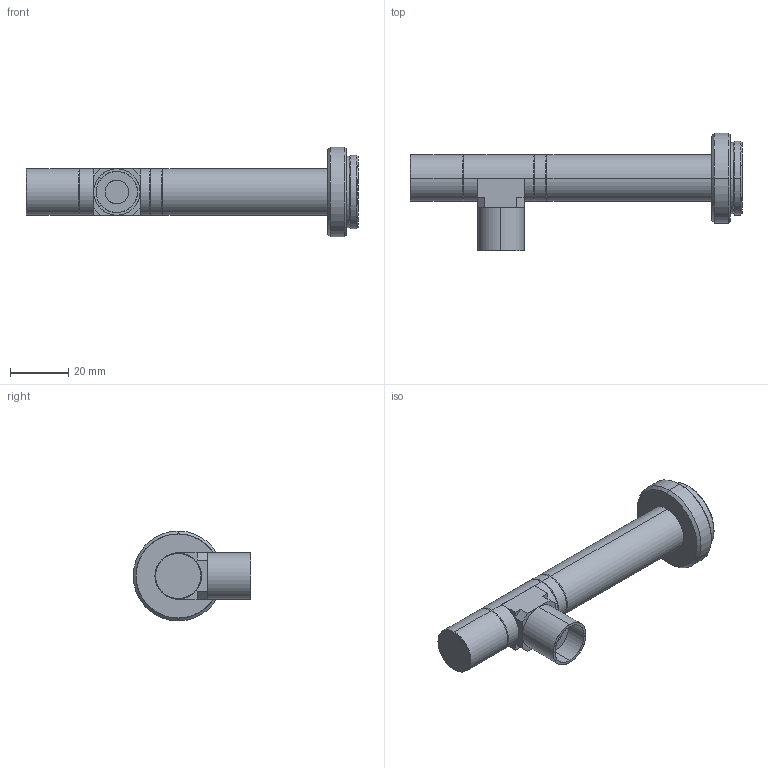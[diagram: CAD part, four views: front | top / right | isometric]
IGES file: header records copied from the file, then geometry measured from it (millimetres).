
Start section: SolidWorks IGES file using analytic representation for surfaces
Global section: file name: C:\Users\sugita_vst\Desktop\AutoCAD恾柺DATA\丒VS-TC10-65CO (3D儌僨儖) 仯\VS-TC10-65CO.IGS; native system: SolidWorks 2018; preprocessor: SolidWorks 2018; author: sugita_vst; date: 190314.171238; units: millimetre
Bounding box: 114.4 x 40.5 x 31 mm (x, y, z)
Surface area: 10048.3 mm2 (no closed solid volume)
Topology: 0 solids, 0 shells, 66 faces, 698 edges, 698 vertices
Faces by surface type: revolution 42, bspline 24
